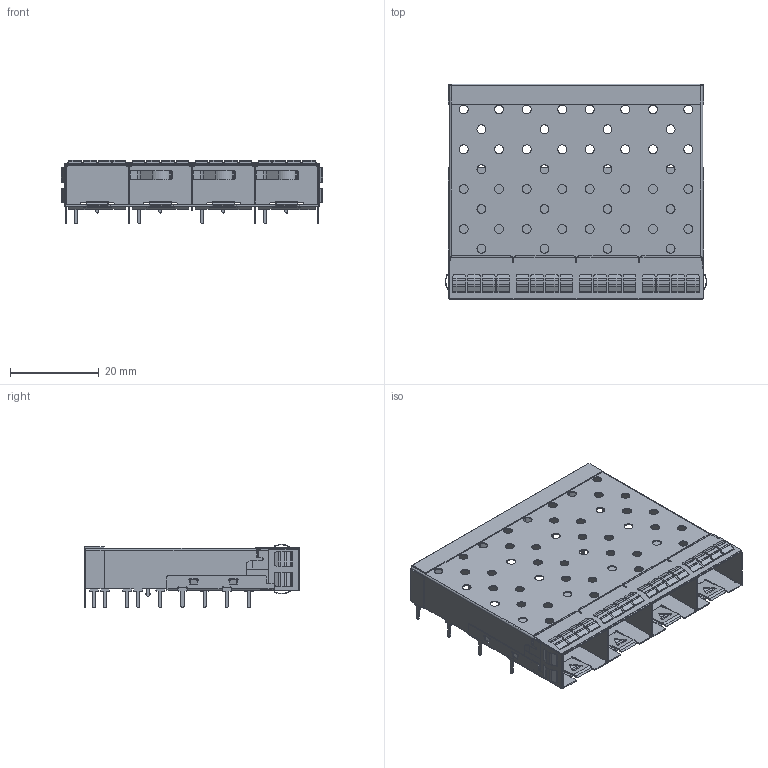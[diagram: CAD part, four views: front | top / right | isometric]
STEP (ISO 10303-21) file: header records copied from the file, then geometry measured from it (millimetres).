
FILE_DESCRIPTION (( 'STEP AP203' ), '1' );
FILE_NAME ('SFP+ 1X4 爾諉宒.STEP', '2023-12-28T09:08:25', ( '' ), ( '' ), 'SwSTEP 2.0', 'SolidWorks 2018', '' );
FILE_SCHEMA (( 'CONFIG_CONTROL_DESIGN' ));
Length unit declared in the file: millimetre
Products named in the file (1): SFP+ 1X4 爾諉宒
Bounding box: 59.06 x 48.7 x 14.31 mm (x, y, z)
Volume: 2030.5 mm3; surface area: 16550.2 mm2
Topology: 1 solids, 2 shells, 2088 faces, 6180 edges, 4069 vertices
Faces by surface type: plane 1068, cylinder 984, bspline 36
Entity records: 73227 total; most frequent: CARTESIAN_POINT 15323, ORIENTED_EDGE 12360, DIRECTION 12184, EDGE_CURVE 6180, VECTOR 4088, LINE 4088, VERTEX_POINT 4069, AXIS2_PLACEMENT_3D 4048
